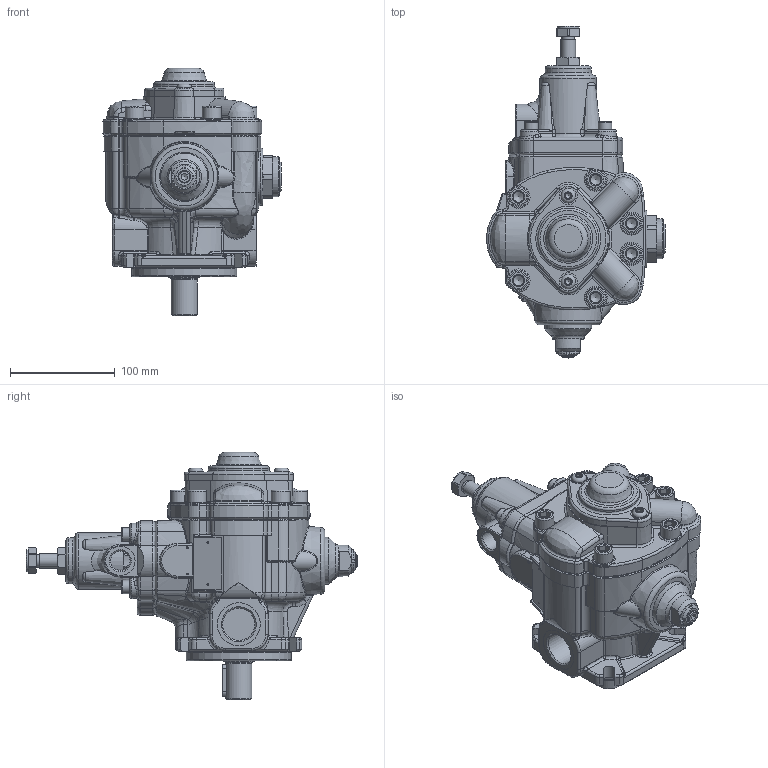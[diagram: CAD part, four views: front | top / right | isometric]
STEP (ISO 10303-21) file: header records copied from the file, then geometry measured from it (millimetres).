
FILE_DESCRIPTION(/* description */ (''),/* implementation_level */ '2;1');
FILE_NAME(/* name */ 'W:\Tecnico\Archivio\Berarma\Dimensioni Pompe\3D Export\Montaggio 3D semplificato\PLP-PHP 1\PLP 1 - A.stp',/* time_stamp */ '2018-10-05T16:58:37+02:00',/* author */ ('marcop'),/* organization */ (''),/* preprocessor_version */ 'ST-DEVELOPER v17',/* originating_system */ 'Autodesk Inventor 2018',/* authorisation */ '');
FILE_SCHEMA (('AUTOMOTIVE_DESIGN { 1 0 10303 214 3 1 1 }'));
Length unit declared in the file: millimetre
Products named in the file (1): PLP-PHP 1_Shrinkwrap_1
Bounding box: 170.45 x 316.7 x 236 mm (x, y, z)
Volume: 2319506.2 mm3; surface area: 276437.3 mm2
Topology: 2 solids, 2 shells, 1674 faces, 4271 edges, 2653 vertices
Faces by surface type: plane 510, cylinder 457, bspline 312, torus 216, cone 155, sphere 24
Full cylindrical faces by diameter (mm): 1.7 x4, 2.5 x3, 8 x1, 10 x1, 12 x3, 13 x4, 14 x4, 15 x1, 15.2 x1, 17 x2, 18 x7, 18.631 x1, 20 x1, 21 x1, 24.5 x2, 25 x1, 28 x1, 28.376 x1, 30 x7, 30.75 x1, 31 x1, 33 x1, 34 x2, 34.2 x1, 38 x2, 38.5 x1, 41 x1, 42 x2, 42.5 x1, 43.376 x1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
Entity records: 62356 total; most frequent: CARTESIAN_POINT 22320, ORIENTED_EDGE 8470, DIRECTION 7548, EDGE_CURVE 4235, AXIS2_PLACEMENT_3D 3069, VERTEX_POINT 2653, EDGE_LOOP 1764, STYLED_ITEM 1676
